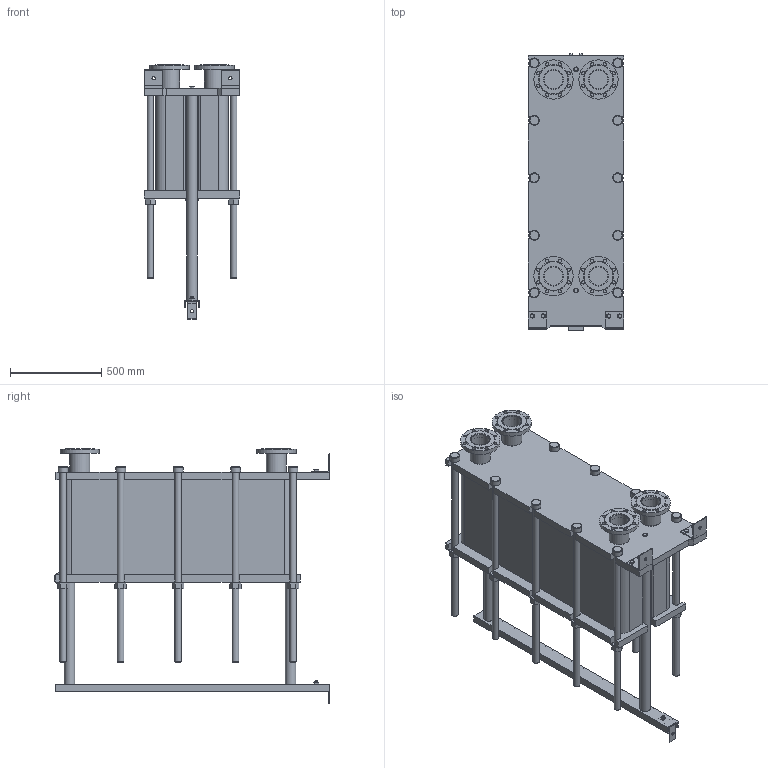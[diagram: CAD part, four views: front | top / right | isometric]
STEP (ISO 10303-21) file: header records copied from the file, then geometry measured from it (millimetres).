
FILE_DESCRIPTION(/* description */ (''),/* implementation_level */ '2;1');
FILE_NAME(/* name */ 'C:\Users\zhuro\Desktop\ENCO\TO\ЭН-04\ЭН-0,5-04-151-1.stp',/* time_stamp */ '2022-06-06T10:58:51+03:00',/* author */ ('zhuro'),/* organization */ (''),/* preprocessor_version */ 'ST-DEVELOPER v18.1',/* originating_system */ 'Autodesk Inventor 2022',/* authorisation */ '');
FILE_SCHEMA (('AUTOMOTIVE_DESIGN { 1 0 10303 214 3 1 1 }'));
Length unit declared in the file: millimetre
Products named in the file (1): ЭН-0,5-04-151-1
Bounding box: 520 x 1510 x 1395.5 mm (x, y, z)
Volume: 334299183.8 mm3; surface area: 9476756.8 mm2
Topology: 45 solids, 45 shells, 668 faces, 1611 edges, 1048 vertices
Faces by surface type: plane 457, cylinder 166, cone 39, torus 6
Full cylindrical faces by diameter (mm): 8 x4, 10 x2, 16 x8, 18 x35, 36 x25, 40 x2, 42 x1, 45 x4, 54 x10, 57 x2, 60 x10, 68 x2, 100 x4, 110 x8, 215 x4
Entity records: 23607 total; most frequent: CARTESIAN_POINT 7348, DIRECTION 3371, ORIENTED_EDGE 3142, EDGE_CURVE 1571, AXIS2_PLACEMENT_3D 1199, VERTEX_POINT 1044, LINE 973, VECTOR 973
